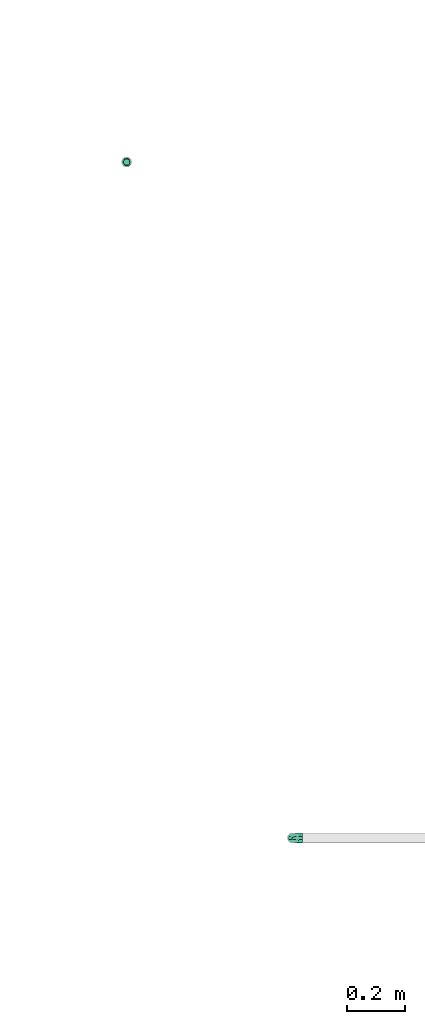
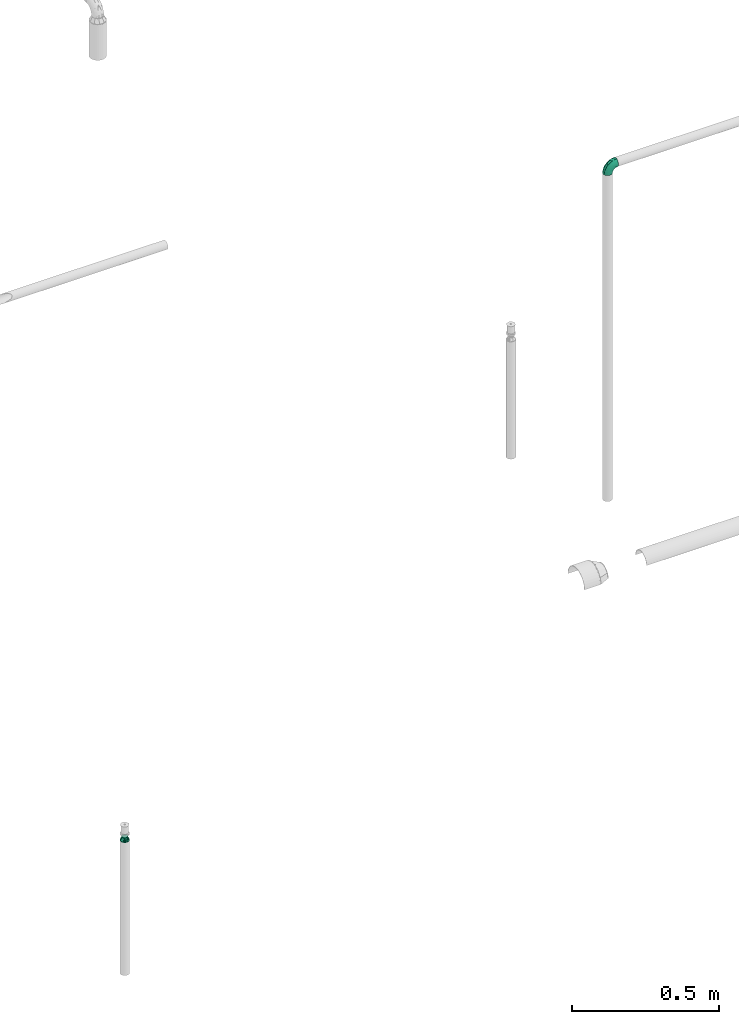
# One storey, part 42 of 63: 2 flow fittings.
"""IFC2X3 building model written with IfcOpenShell, lengths in millimetres."""

from ifc_helpers import new_model, entity, si_unit, converted_unit, derived_unit, direction, frame, origin_with_axes, place, context, subcontext, project, spatial, open_shell, surface_model, source, transform, mapped, type_object, element, save


model = new_model("IFC2X3")

# Units and contexts
model_context = context("Model", 3, precision=0.01, world=frame((0.0, 4.29681676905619e-09, 0.0)), true_north=direction((4.01073788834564e-13, 1.0)))
plan_context = context("Plan", 3, precision=0.01, world=frame((0.0, 4.29681676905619e-09, 0.0)), true_north=direction((4.01073788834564e-13, 1.0)))
body_context = subcontext(model_context, "Body", "Model", "MODEL_VIEW")
ifc_project = project(units=[converted_unit("PLANEANGLEUNIT", "DEGREE", entity("IfcPositiveLengthMeasure", 0.0174532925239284), si_unit("PLANEANGLEUNIT", "RADIAN"), dimensions=[0, 0, 0, 0, 0, 0, 0]), si_unit("AREAUNIT", "SQUARE_METRE"), si_unit("LENGTHUNIT", "METRE", prefix="MILLI"), si_unit("MASSUNIT", "GRAM", prefix="KILO"), si_unit("POWERUNIT", "WATT"), si_unit("PRESSUREUNIT", "PASCAL", prefix="KILO"), si_unit("FORCEUNIT", "NEWTON", prefix="KILO"), si_unit("ELECTRICVOLTAGEUNIT", "VOLT"), si_unit("ELECTRICCURRENTUNIT", "AMPERE"), si_unit("THERMODYNAMICTEMPERATUREUNIT", "DEGREE_CELSIUS"), si_unit("TIMEUNIT", "SECOND"), si_unit("VOLUMEUNIT", "CUBIC_METRE"), derived_unit("LINEARVELOCITYUNIT", [(si_unit("LENGTHUNIT", "METRE"), 1), (si_unit("TIMEUNIT", "SECOND"), -1)]), derived_unit("VOLUMETRICFLOWRATEUNIT", [(si_unit("VOLUMEUNIT", "CUBIC_METRE"), 1), (si_unit("TIMEUNIT", "SECOND"), -1)]), derived_unit("THERMALTRANSMITTANCEUNIT", [(si_unit("POWERUNIT", "WATT"), 1), (si_unit("THERMODYNAMICTEMPERATUREUNIT", "KELVIN"), -1), (si_unit("AREAUNIT", "SQUARE_METRE"), -1)]), derived_unit("SOUNDPRESSUREUNIT", [(si_unit("PRESSUREUNIT", "PASCAL"), 1)])], contexts=[model_context, plan_context])

# Site, building, storey
site_placement = place(None, frame((0.0, -4.29681676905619e-09, 0.0), z_axis=(0.0, 0.0, 1.0), x_axis=(1.0, 0.0, 0.0)))
site = spatial("IfcSite", under=ifc_project, at=site_placement, CompositionType="ELEMENT")
building_placement = place(site_placement, frame((0.0, 4.29681676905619e-09, 0.0), z_axis=(0.0, 0.0, 1.0), x_axis=(1.0, 0.0, 0.0)))
building = spatial("IfcBuilding", under=site, at=building_placement, Name="mc-building", CompositionType="ELEMENT")
storey_placement = place(building_placement, frame((0.0, 0.0, 207370.0), z_axis=(0.0, 0.0, 1.0), x_axis=(1.0, 0.0, 0.0)))
storey = spatial("IfcBuildingStorey", under=building, at=storey_placement, Name="Nivå E", CompositionType="ELEMENT", Elevation=207370.0)

# Flow fittings
pipe_fitting_type_1 = type_object("IfcPipeFittingType", Name="magi_pipe_fe_reducer_centric_short_NOR", PredefinedType="TRANSITION")
shared_shape_1 = source(origin_with_axes(), body_context, "Body", "SurfaceModel", [
    surface_model("IfcShellBasedSurfaceModel", [(14.4, 5.35, -9.26647), (14.4, 0.0, -10.7), (14.4, 2.76936, -10.33541), (14.4, 10.33541, -2.76936), (14.4, 7.56604, -7.56604), (14.4, -10.33541, -2.76936), (14.4, 9.26647, -5.35), (14.4, 0.0, 10.7), (14.4, -5.35, -9.26647), (14.4, -2.76936, -10.33541), (14.4, -7.56604, -7.56604), (14.4, -9.26647, -5.35), (14.4, 10.7, 0.0), (14.4, 10.33541, 2.76936), (14.4, 9.26647, 5.35), (14.4, 7.56604, 7.56604), (14.4, 2.76936, 10.33541), (14.4, 5.35, 9.26647), (14.4, -10.33541, 2.76936), (14.4, -7.56604, 7.56604), (14.4, -9.26647, 5.35), (14.4, -10.7, 0.0), (14.4, -2.76936, 10.33541), (14.4, -5.35, 9.26647), (12.4, 2.76936, 10.33541), (12.4, -10.33541, -2.76936), (12.4, 0.0, 10.7), (12.4, 5.35, 9.26647), (12.4, 7.56604, 7.56604), (12.4, 9.26647, 5.35), (12.4, 10.33541, 2.76936), (12.4, -10.33541, 2.76936), (12.4, -2.76936, 10.33541), (12.4, -7.56604, 7.56604), (12.4, -5.35, 9.26647), (12.4, -9.26647, 5.35), (12.4, -10.7, 0.0), (12.4, 10.33541, -2.76936), (12.4, 5.35, -9.26647), (12.4, 9.26647, -5.35), (12.4, 7.56604, -7.56604), (12.4, 2.76936, -10.33541), (12.4, -9.26647, -5.35), (12.4, -5.35, -9.26647), (12.4, -7.56604, -7.56604), (12.4, 0.0, -10.7), (12.4, -2.76936, -10.33541), (12.4, 10.7, 0.0), (-2.0, 11.9501, 11.9501), (-2.0, 0.0, 16.9), (-2.0, 4.37404, 16.32415), (-2.0, 8.45, 14.63583), (-2.0, 14.63583, 8.45), (-2.0, 16.32415, 4.37404), (-2.0, -16.32415, 4.37404), (-2.0, -8.45, 14.63583), (-2.0, -14.63583, 8.45), (-2.0, -11.9501, 11.9501), (-2.0, -4.37404, 16.32415), (-2.0, -16.32415, -4.37404), (-2.0, -16.9, 0.0), (-2.0, -8.45, -14.63583), (-2.0, 16.32415, -4.37404), (-2.0, 11.9501, -11.9501), (-2.0, 14.63583, -8.45), (-2.0, 8.45, -14.63583), (-2.0, 4.37404, -16.32415), (-2.0, 0.0, -16.9), (-2.0, -11.9501, -11.9501), (-2.0, -14.63583, -8.45), (-2.0, -4.37404, -16.32415), (-2.0, 16.9, 0.0), (0.0, 4.37404, -16.32415), (0.0, 8.45, -14.63583), (0.0, 11.9501, -11.9501), (0.0, 0.0, -16.9), (0.0, 16.32415, -4.37404), (0.0, 16.32415, 4.37404), (0.0, 14.63583, -8.45), (0.0, -8.45, -14.63583), (0.0, -4.37404, -16.32415), (0.0, -11.9501, -11.9501), (0.0, -16.32415, -4.37404), (0.0, -14.63583, -8.45), (0.0, -16.32415, 4.37404), (0.0, 16.9, 0.0), (0.0, 14.63583, 8.45), (0.0, 11.9501, 11.9501), (0.0, 4.37404, 16.32415), (0.0, 8.45, 14.63583), (0.0, 0.0, 16.9), (0.0, -14.63583, 8.45), (0.0, -16.9, 0.0), (0.0, -8.45, 14.63583), (0.0, -11.9501, 11.9501), (0.0, -4.37404, 16.32415), (12.4, 9.3625, -2.31662), (0.0, 14.42505, -5.97505), (0.0, 15.66253, -2.98753), (12.4, -6.6875, -6.94985), (0.0, -13.18758, -8.96258), (0.0, 2.98753, -15.66253), (12.4, 0.0, -9.26647), (12.4, 6.6875, -6.94985), (0.0, 8.96258, -13.18758), (12.4, -9.3625, -2.31662), (0.0, -15.66253, -2.98753), (0.0, -14.42505, -5.97505), (0.0, 5.97505, -14.42505), (0.0, -2.98753, -15.66253), (0.0, -8.96258, -13.18758), (0.0, 13.18758, -8.96258), (12.4, 8.025, -4.63324), (12.4, -2.675, -9.26647), (12.4, 2.675, -9.26647), (0.0, -5.97505, -14.42505), (12.4, -8.025, -4.63324), (12.4, -9.3625, 2.31662), (0.0, -14.42505, 5.97505), (0.0, -15.66253, 2.98753), (12.4, 6.6875, 6.94985), (0.0, 13.18758, 8.96258), (0.0, -2.98753, 15.66253), (12.4, 0.0, 9.26647), (12.4, -6.6875, 6.94985), (0.0, -8.96258, 13.18758), (12.4, 9.3625, 2.31662), (0.0, 15.66253, 2.98753), (0.0, 14.42505, 5.97505), (0.0, -5.97505, 14.42505), (0.0, 2.98753, 15.66253), (0.0, 8.96258, 13.18758), (0.0, -13.18758, 8.96258), (12.4, -8.025, 4.63324), (12.4, 2.675, 9.26647), (12.4, -2.675, 9.26647), (0.0, 5.97505, 14.42505), (12.4, 8.025, 4.63324)], [open_shell([[[0, 1, 2]], [[3, 0, 4]], [[5, 0, 3]], [[3, 4, 6]], [[7, 5, 3]], [[1, 8, 9]], [[1, 0, 8]], [[10, 5, 11]], [[5, 10, 8]], [[0, 5, 8]], [[3, 12, 13]], [[13, 14, 15]], [[13, 15, 16]], [[7, 3, 16]], [[16, 15, 17]], [[7, 18, 5]], [[18, 19, 20]], [[21, 5, 18]], [[19, 22, 23]], [[22, 19, 18]], [[7, 22, 18]], [[13, 16, 3]], [[24, 25, 26]], [[27, 25, 24]], [[28, 29, 30]], [[28, 25, 27]], [[31, 26, 25]], [[32, 33, 34]], [[33, 32, 31]], [[33, 31, 35]], [[32, 26, 31]], [[31, 25, 36]], [[30, 37, 28]], [[25, 28, 37]], [[38, 37, 39]], [[37, 38, 25]], [[38, 39, 40]], [[41, 25, 38]], [[42, 43, 44]], [[43, 42, 25]], [[43, 45, 46]], [[43, 25, 41]], [[41, 45, 43]], [[37, 30, 47]], [[25, 5, 36]], [[42, 11, 25]], [[8, 44, 43]], [[42, 44, 10]], [[9, 43, 46]], [[25, 11, 5]], [[5, 21, 36]], [[9, 8, 43]], [[10, 44, 8]], [[10, 11, 42]], [[1, 9, 46]], [[46, 45, 1]], [[41, 2, 45]], [[38, 0, 41]], [[6, 40, 39]], [[38, 40, 4]], [[3, 39, 37]], [[38, 4, 0]], [[0, 2, 41]], [[12, 3, 37]], [[6, 39, 3]], [[6, 4, 40]], [[47, 12, 37]], [[45, 2, 1]], [[30, 13, 47]], [[29, 14, 30]], [[17, 28, 27]], [[29, 28, 15]], [[16, 27, 24]], [[30, 14, 13]], [[13, 12, 47]], [[16, 17, 27]], [[15, 28, 17]], [[15, 14, 29]], [[7, 16, 24]], [[24, 26, 7]], [[32, 22, 26]], [[34, 23, 32]], [[20, 33, 35]], [[34, 33, 19]], [[18, 35, 31]], [[34, 19, 23]], [[23, 22, 32]], [[21, 18, 31]], [[20, 35, 18]], [[20, 19, 33]], [[36, 21, 31]], [[26, 22, 7]], [[48, 49, 50]], [[48, 50, 51]], [[48, 52, 53]], [[48, 53, 49]], [[49, 53, 54]], [[55, 56, 57]], [[55, 58, 49]], [[56, 55, 49]], [[49, 54, 56]], [[54, 59, 60]], [[54, 53, 61]], [[53, 62, 63]], [[63, 62, 64]], [[63, 65, 66]], [[61, 53, 63]], [[67, 63, 66]], [[59, 68, 69]], [[68, 59, 61]], [[61, 67, 70]], [[59, 54, 61]], [[63, 67, 61]], [[53, 71, 62]], [[72, 73, 74]], [[75, 72, 74]], [[74, 76, 77]], [[76, 74, 78]], [[74, 77, 79]], [[75, 79, 80]], [[75, 74, 79]], [[81, 82, 83]], [[82, 81, 79]], [[79, 84, 82]], [[77, 76, 85]], [[77, 86, 87]], [[77, 87, 88]], [[88, 84, 79]], [[88, 87, 89]], [[84, 88, 90]], [[90, 91, 84]], [[92, 82, 84]], [[91, 93, 94]], [[91, 90, 93]], [[93, 90, 95]], [[79, 77, 88]], [[59, 82, 60]], [[69, 83, 59]], [[79, 68, 61]], [[69, 68, 81]], [[80, 61, 70]], [[59, 83, 82]], [[82, 92, 60]], [[80, 79, 61]], [[81, 68, 79]], [[81, 83, 69]], [[75, 80, 70]], [[70, 67, 75]], [[66, 72, 67]], [[65, 73, 66]], [[78, 63, 64]], [[65, 63, 74]], [[76, 64, 62]], [[65, 74, 73]], [[73, 72, 66]], [[85, 76, 62]], [[78, 64, 76]], [[78, 74, 63]], [[71, 85, 62]], [[67, 72, 75]], [[53, 77, 71]], [[52, 86, 53]], [[89, 48, 51]], [[52, 48, 87]], [[88, 51, 50]], [[53, 86, 77]], [[77, 85, 71]], [[88, 89, 51]], [[87, 48, 89]], [[87, 86, 52]], [[90, 88, 50]], [[50, 49, 90]], [[58, 95, 49]], [[55, 93, 58]], [[91, 57, 56]], [[55, 57, 94]], [[84, 56, 54]], [[55, 94, 93]], [[93, 95, 58]], [[92, 84, 54]], [[91, 56, 84]], [[91, 94, 57]], [[60, 92, 54]], [[49, 95, 90]], [[27, 34, 47]], [[47, 34, 43]], [[43, 38, 47]], [[43, 34, 36]], [[90, 87, 94]], [[92, 94, 87]], [[87, 74, 92]], [[75, 92, 74]], [[81, 92, 75]], [[74, 87, 85]], [[96, 97, 98]], [[81, 99, 100]], [[101, 102, 75]], [[98, 85, 47]], [[74, 103, 104]], [[104, 103, 38]], [[105, 106, 107]], [[38, 108, 104]], [[102, 109, 75]], [[110, 99, 81]], [[47, 96, 98]], [[103, 111, 112]], [[109, 102, 113]], [[36, 92, 106]], [[102, 101, 114]], [[110, 115, 43]], [[96, 112, 97]], [[107, 116, 105]], [[36, 106, 105]], [[113, 115, 109]], [[43, 115, 113]], [[116, 107, 100]], [[108, 38, 114]], [[111, 103, 74]], [[111, 97, 112]], [[99, 110, 43]], [[116, 100, 99]], [[101, 108, 114]], [[117, 118, 119]], [[87, 120, 121]], [[122, 123, 90]], [[119, 92, 36]], [[94, 124, 125]], [[125, 124, 34]], [[126, 127, 128]], [[34, 129, 125]], [[123, 130, 90]], [[131, 120, 87]], [[36, 117, 119]], [[124, 132, 133]], [[130, 123, 134]], [[47, 85, 127]], [[123, 122, 135]], [[131, 136, 27]], [[117, 133, 118]], [[128, 137, 126]], [[47, 127, 126]], [[134, 136, 130]], [[27, 136, 134]], [[137, 128, 121]], [[129, 34, 135]], [[132, 124, 94]], [[132, 118, 133]], [[120, 131, 27]], [[137, 121, 120]], [[122, 129, 135]]])]),
])
flow_fitting_1_placement = place(storey_placement, frame((726013.2856, 441293.31989, 3018.36794), z_axis=(0.0, -1.0, 0.0), x_axis=(0.0, 0.0, 1.0)))
element("IfcFlowFitting", 1, at=flow_fitting_1_placement, inside=storey, type_object=pipe_fitting_type_1, Name="magi_pipe_fe_reducer_centric_short_NOR", context=body_context, shape_type="MappedRepresentation", body=[
    mapped(shared_shape_1, transform((0.0, 0.0, 0.0), scale=1.0)),
])
pipe_fitting_type_2 = type_object("IfcPipeFittingType", Name="magi_pipe_fe_elbow_short_001", PredefinedType="BEND")
shared_shape_2 = source(origin_with_axes(), body_context, "Body", "SurfaceModel", [
    surface_model("IfcShellBasedSurfaceModel", [(-33.8, 8.45, -14.63583), (-33.8, 4.37404, -16.32415), (-33.8, 11.9501, -11.9501), (-33.8, -11.9501, -11.9501), (-33.8, -14.63583, -8.45), (-33.8, -8.45, -14.63583), (-33.8, 0.0, -16.9), (-33.8, -4.37404, -16.32415), (-33.8, -4.37404, 16.32415), (-33.8, 0.0, 16.9), (-33.8, -8.45, 14.63583), (-33.8, 16.32415, -4.37404), (-33.8, 14.63583, -8.45), (-33.8, -16.32415, -4.37404), (-33.8, -16.9, 0.0), (-33.8, -16.32415, 4.37404), (-33.8, 11.9501, 11.9501), (-33.8, 14.63583, 8.45), (-33.8, 16.32415, 4.37404), (-33.8, 4.37404, 16.32415), (-33.8, 8.45, 14.63583), (-33.8, -14.63583, 8.45), (-33.8, -11.9501, 11.9501), (-33.8, 16.9, 0.0), (-11.9501, 33.8, -11.9501), (0.0, 33.8, -16.9), (-4.37404, 33.8, -16.32415), (-8.45, 33.8, -14.63583), (-14.63583, 33.8, -8.45), (-16.32415, 33.8, -4.37404), (14.63583, 33.8, -8.45), (8.45, 33.8, 14.63583), (16.32415, 33.8, -4.37404), (8.45, 33.8, -14.63583), (11.9501, 33.8, -11.9501), (4.37404, 33.8, -16.32415), (16.32415, 33.8, 4.37404), (16.9, 33.8, 0.0), (-11.9501, 33.8, 11.9501), (-16.32415, 33.8, 4.37404), (-14.63583, 33.8, 8.45), (-8.45, 33.8, 14.63583), (-4.37404, 33.8, 16.32415), (11.9501, 33.8, 11.9501), (14.63583, 33.8, 8.45), (0.0, 33.8, 16.9), (4.37404, 33.8, 16.32415), (-16.9, 33.8, 0.0), (-24.79389, -13.12945, 9.48721), (-22.19287, -9.75018, 12.59315), (-24.09897, -14.97035, 0.0), (-14.93934, -10.76256, 8.5297), (-22.46095, -14.75051, 5.27077), (14.75051, 22.46094, 5.27077), (11.9251, 13.23888, 4.33236), (13.04069, 14.39795, 0.0), (7.71387, 13.68847, 11.55891), (9.75018, 22.19287, 12.59315), (4.10169, 13.0571, 14.04018), (-24.84007, -6.39063, 15.2048), (-25.81779, -2.23879, 16.61097), (-23.66549, 2.59054, 16.87119), (-26.50418, 14.06512, 11.08152), (-24.21253, 17.66365, 7.72657), (-29.58514, 15.86957, 7.00283), (-6.17382, -7.5455, 0.0), (-13.23888, -11.9251, 4.33236), (-14.39795, -13.04069, 0.0), (-17.81434, 18.87373, 11.97104), (-6.30846, 29.15138, 15.82987), (-2.31622, 25.28002, 16.85849), (-29.23923, 10.23435, 13.77053), (-1.45439, -2.85688, 7.61475), (-0.28326, 0.34872, 10.09509), (-5.74484, -4.04709, 10.4122), (-4.41137, 11.31918, 16.59407), (-8.39727, 3.10034, 15.7812), (-1.72649, 9.1306, 15.53089), (-17.39909, 24.75344, 7.64977), (-26.19233, 20.0512, 0.0), (-28.14518, 17.29657, 4.25857), (-26.05147, 6.6281, 15.96447), (-5.87354, 16.61944, 16.86968), (-12.51807, 12.51807, 16.48937), (-10.06312, 7.38516, 16.81295), (-3.01882, 3.01882, 13.81718), (-13.0571, -4.10169, 14.04018), (-16.82553, -0.15166, 16.38038), (10.76256, 14.93934, 8.5297), (13.12945, 24.79389, 9.48721), (6.39063, 24.84007, 15.2048), (2.23879, 25.81779, 16.61097), (-13.68847, -7.71387, 11.55891), (14.97035, 24.09897, 0.0), (-7.30894, 22.89991, 16.09489), (-10.67958, 26.17414, 14.008), (-12.78295, 18.26924, 15.06066), (-13.88562, 22.45231, 12.93244), (-18.04944, 15.16501, 14.04434), (-23.11658, 20.08178, 4.02986), (-21.84989, 21.84989, 0.0), (-18.55817, 25.48277, 3.93065), (-13.95142, 26.94732, 11.03289), (-18.57098, 7.23906, 16.59756), (-16.58335, 4.14122, 16.89279), (-17.96666, 11.46709, 15.63151), (-9.84453, 17.54304, 16.18938), (0.15166, 16.82553, 16.38038), (-23.27207, 11.47201, 14.23154), (3.84842, 5.86994, 10.70473), (-8.0212, -7.54413, 7.93275), (1.00345, -2.19508, 4.57414), (5.13203, 3.01004, 5.90201), (5.24161, 1.7543, 2.53265), (8.70457, 7.04947, 3.99182), (-20.0512, 26.19233, 0.0), (8.4852, 8.76699, 7.09296), (-4.55488, -6.72064, 4.90681), (2.05031, -2.05031, 0.0), (7.5455, 6.17382, 0.0), (-26.75399, 2.1369, -16.845), (-14.61995, 24.73803, -11.27736), (-28.45274, -13.45335, -9.81895), (-26.00469, 6.63555, -15.96645), (-23.06726, 20.04573, -4.26202), (-13.80647, -4.26506, -14.17873), (-14.67501, -0.21081, -16.07388), (-6.7902, -0.2828, -13.8478), (-24.53586, 11.08096, -14.13417), (-26.72048, 14.00837, -11.05776), (10.0967, 24.44989, -12.75976), (5.83237, 21.40218, -15.03047), (6.66249, 28.54238, -15.38093), (-20.38182, 15.48705, -12.74596), (12.53268, 21.23441, -9.15363), (12.54494, 15.67504, -5.54878), (9.7522, 12.89279, -8.66343), (-15.65186, 19.64213, -13.01327), (-12.03528, 20.66498, -14.67665), (-15.61907, 15.61906, -14.83879), (-25.56551, -15.26206, 0.0), (-24.65452, -15.12934, -5.50955), (13.45335, 28.45274, -9.81895), (15.12934, 24.65452, -5.50955), (-7.35442, -8.31014, -5.65563), (-15.67504, -12.54494, -5.54878), (-24.44989, -10.0967, -12.75976), (0.16522, 0.41303, -9.71728), (-5.70658, -5.33066, -8.89288), (-5.13869, -2.37198, -11.53565), (-21.23441, -12.53268, -9.15363), (0.71146, 7.93863, -14.09382), (0.21081, 14.67501, -16.07388), (3.49291, 14.42772, -14.76381), (-24.89911, -2.13088, -16.591), (-28.54238, -6.66249, -15.38093), (-18.44386, -7.71663, -13.26957), (2.13088, 24.89911, -16.591), (-28.64342, 17.44413, -2.89318), (1.70017, -1.28722, -5.09504), (-16.57067, 26.81947, -7.36596), (-17.69055, 27.4263, -3.76405), (-12.89279, -9.7522, -8.66343), (-5.96611, 5.96611, -15.95814), (-20.53709, 20.09345, -8.28985), (-2.1369, 26.75399, -16.845), (-6.89872, 24.58781, -16.02578), (-10.60739, 26.53157, -13.98044), (-21.40218, -5.83237, -15.03047), (2.93192, 5.89627, -11.55917), (6.89393, 12.61842, -11.82233), (5.58056, 5.95325, -8.79455), (-3.99512, 18.61798, -16.89635), (8.31014, 7.35442, -5.65563), (-9.1383, 9.86148, -16.89041), (-9.99983, 16.02119, -16.39699), (-16.68576, 9.78031, -16.34199), (-27.01915, 16.61158, -7.12979), (15.26206, 25.56551, 0.0), (-18.61798, 3.99512, -16.89635), (-19.37495, 27.82495, 0.0), (-12.61842, -6.89393, -11.82233), (-18.84705, 19.14018, -10.96545)], [open_shell([[[0, 1, 2]], [[3, 4, 5]], [[6, 7, 5]], [[8, 9, 10]], [[1, 6, 2]], [[11, 12, 2]], [[4, 2, 6]], [[2, 13, 10]], [[5, 4, 6]], [[2, 4, 13]], [[14, 15, 13]], [[11, 2, 16]], [[11, 17, 18]], [[11, 16, 17]], [[19, 20, 16]], [[16, 2, 10]], [[19, 16, 10]], [[21, 22, 15]], [[22, 13, 15]], [[22, 10, 13]], [[10, 9, 19]], [[11, 18, 23]], [[24, 25, 26]], [[24, 26, 27]], [[24, 28, 29]], [[25, 24, 30]], [[31, 32, 24]], [[33, 30, 34]], [[33, 35, 25]], [[25, 30, 33]], [[32, 30, 24]], [[32, 36, 37]], [[38, 24, 29]], [[39, 40, 29]], [[40, 38, 29]], [[38, 41, 42]], [[38, 31, 24]], [[31, 38, 42]], [[36, 43, 44]], [[36, 32, 43]], [[31, 45, 46]], [[32, 31, 43]], [[42, 45, 31]], [[39, 29, 47]], [[22, 48, 49]], [[15, 14, 50]], [[51, 48, 52]], [[53, 54, 55]], [[48, 22, 21]], [[15, 52, 21]], [[56, 57, 58]], [[49, 10, 22]], [[49, 59, 10]], [[9, 60, 61]], [[62, 63, 64]], [[65, 66, 67]], [[57, 43, 31]], [[62, 68, 63]], [[42, 69, 70]], [[20, 71, 16]], [[8, 60, 9]], [[72, 73, 74]], [[75, 76, 77]], [[16, 62, 17]], [[40, 39, 78]], [[79, 23, 80]], [[64, 18, 17]], [[9, 61, 19]], [[19, 81, 20]], [[82, 83, 84]], [[74, 85, 86]], [[59, 86, 87]], [[88, 89, 57]], [[90, 31, 46]], [[44, 53, 36]], [[46, 45, 91]], [[54, 53, 88]], [[44, 89, 53]], [[92, 86, 49]], [[89, 44, 43]], [[10, 59, 8]], [[53, 55, 93]], [[93, 36, 53]], [[66, 52, 67]], [[94, 82, 70]], [[95, 96, 94]], [[97, 98, 96]], [[79, 99, 100]], [[41, 38, 95]], [[101, 100, 99]], [[68, 78, 63]], [[42, 41, 69]], [[23, 18, 80]], [[95, 94, 69]], [[78, 101, 99]], [[38, 102, 95]], [[70, 45, 42]], [[97, 95, 102]], [[15, 50, 52]], [[90, 57, 31]], [[57, 90, 58]], [[81, 19, 61]], [[103, 104, 84]], [[105, 81, 103]], [[38, 40, 102]], [[106, 96, 83]], [[94, 106, 82]], [[91, 70, 107]], [[71, 62, 16]], [[62, 108, 98]], [[86, 59, 49]], [[67, 52, 50]], [[60, 59, 87]], [[92, 49, 51]], [[86, 85, 76]], [[91, 90, 46]], [[37, 36, 93]], [[107, 77, 58]], [[107, 58, 90]], [[58, 85, 109]], [[110, 74, 92]], [[72, 74, 110]], [[66, 51, 52]], [[72, 111, 112]], [[113, 114, 112]], [[56, 88, 57]], [[52, 48, 21]], [[49, 48, 51]], [[57, 89, 43]], [[53, 89, 88]], [[103, 81, 61]], [[71, 81, 108]], [[18, 64, 80]], [[63, 78, 99]], [[47, 115, 101]], [[101, 115, 100]], [[40, 78, 102]], [[68, 102, 78]], [[97, 96, 95]], [[105, 98, 108]], [[103, 84, 83]], [[107, 70, 82]], [[76, 84, 87]], [[82, 84, 75]], [[70, 91, 45]], [[90, 91, 107]], [[59, 60, 8]], [[61, 60, 87]], [[73, 85, 74]], [[109, 112, 116]], [[103, 61, 104]], [[105, 103, 83]], [[96, 105, 83]], [[81, 105, 108]], [[96, 98, 105]], [[62, 98, 68]], [[61, 87, 104]], [[87, 84, 104]], [[86, 76, 87]], [[77, 76, 85]], [[58, 77, 85]], [[75, 77, 107]], [[82, 75, 107]], [[76, 75, 84]], [[81, 71, 20]], [[62, 71, 108]], [[95, 69, 41]], [[70, 69, 94]], [[62, 64, 17]], [[80, 63, 99]], [[63, 80, 64]], [[80, 99, 79]], [[66, 65, 117]], [[110, 66, 117]], [[112, 114, 116]], [[118, 117, 65]], [[110, 92, 51]], [[112, 111, 113]], [[119, 55, 54]], [[74, 86, 92]], [[58, 109, 56]], [[116, 56, 109]], [[66, 110, 51]], [[72, 110, 117]], [[111, 72, 117]], [[73, 112, 109]], [[117, 118, 111]], [[113, 111, 118]], [[118, 119, 113]], [[114, 119, 54]], [[119, 114, 113]], [[116, 54, 88]], [[54, 116, 114]], [[116, 88, 56]], [[112, 73, 72]], [[85, 73, 109]], [[78, 39, 101]], [[47, 101, 39]], [[102, 68, 97]], [[97, 68, 98]], [[82, 106, 83]], [[94, 96, 106]], [[1, 120, 6]], [[28, 24, 121]], [[3, 122, 4]], [[0, 123, 1]], [[100, 124, 79]], [[125, 126, 127]], [[128, 2, 129]], [[130, 131, 132]], [[128, 129, 133]], [[134, 135, 136]], [[137, 138, 139]], [[128, 0, 2]], [[67, 140, 141]], [[134, 142, 143]], [[141, 13, 4]], [[144, 65, 145]], [[146, 3, 5]], [[147, 148, 149]], [[145, 141, 150]], [[151, 152, 153]], [[154, 7, 6]], [[5, 155, 146]], [[150, 146, 156]], [[155, 5, 7]], [[143, 135, 134]], [[35, 157, 25]], [[23, 79, 158]], [[148, 159, 144]], [[160, 161, 29]], [[145, 162, 144]], [[163, 152, 151]], [[29, 28, 160]], [[121, 164, 160]], [[33, 34, 130]], [[25, 165, 26]], [[26, 165, 166]], [[142, 34, 30]], [[24, 27, 167]], [[124, 161, 164]], [[157, 35, 132]], [[155, 154, 168]], [[123, 0, 128]], [[169, 170, 171]], [[172, 157, 152]], [[26, 166, 27]], [[132, 35, 33]], [[142, 130, 34]], [[168, 154, 126]], [[136, 135, 173]], [[133, 137, 139]], [[2, 12, 129]], [[170, 131, 130]], [[30, 32, 143]], [[172, 174, 175]], [[176, 123, 128]], [[158, 177, 11]], [[135, 55, 119]], [[167, 27, 166]], [[175, 166, 172]], [[137, 167, 138]], [[122, 141, 4]], [[140, 14, 13]], [[32, 37, 178]], [[170, 130, 134]], [[152, 157, 131]], [[165, 157, 172]], [[153, 170, 151]], [[152, 163, 174]], [[168, 125, 156]], [[122, 146, 150]], [[120, 154, 6]], [[179, 174, 126]], [[179, 126, 154]], [[126, 163, 127]], [[162, 145, 150]], [[140, 13, 141]], [[32, 178, 143]], [[55, 143, 178]], [[177, 129, 12]], [[128, 133, 139]], [[176, 128, 139]], [[120, 123, 179]], [[121, 160, 28]], [[161, 100, 180]], [[166, 175, 138]], [[121, 24, 167]], [[161, 47, 29]], [[79, 124, 158]], [[124, 164, 177]], [[161, 124, 100]], [[136, 171, 170]], [[127, 163, 151]], [[147, 171, 159]], [[148, 144, 162]], [[127, 151, 169]], [[127, 181, 125]], [[129, 177, 164]], [[12, 11, 177]], [[159, 65, 144]], [[67, 141, 145]], [[143, 55, 135]], [[135, 119, 173]], [[123, 120, 1]], [[154, 120, 179]], [[157, 165, 25]], [[166, 165, 172]], [[172, 152, 174]], [[176, 139, 175]], [[126, 174, 163]], [[176, 174, 179]], [[174, 176, 175]], [[123, 176, 179]], [[150, 181, 162]], [[127, 149, 181]], [[181, 148, 162]], [[159, 148, 147]], [[171, 136, 173]], [[170, 134, 136]], [[159, 171, 173]], [[171, 147, 169]], [[169, 147, 149]], [[151, 170, 169]], [[164, 182, 129]], [[182, 121, 137]], [[181, 149, 148]], [[169, 149, 127]], [[182, 137, 133]], [[167, 137, 121]], [[166, 138, 167]], [[175, 139, 138]], [[129, 182, 133]], [[121, 182, 164]], [[161, 160, 164]], [[47, 161, 180]], [[177, 158, 124]], [[23, 158, 11]], [[130, 132, 33]], [[157, 132, 131]], [[143, 142, 30]], [[130, 142, 134]], [[154, 155, 7]], [[146, 155, 168]], [[146, 122, 3]], [[141, 122, 150]], [[152, 131, 153]], [[159, 119, 118]], [[67, 145, 65]], [[170, 153, 131]], [[119, 159, 173]], [[159, 118, 65]], [[156, 125, 181]], [[126, 125, 168]], [[150, 156, 181]], [[168, 156, 146]]])]),
])
flow_fitting_2_placement = place(storey_placement, frame((726580.0, 438982.74228, 7030.0), z_axis=(0.0, 1.0, 0.0), x_axis=(0.0, 0.0, 1.0)))
element("IfcFlowFitting", 2, at=flow_fitting_2_placement, inside=storey, type_object=pipe_fitting_type_2, Name="magi_pipe_fe_elbow_short_001", context=body_context, shape_type="MappedRepresentation", body=[
    mapped(shared_shape_2, transform((0.0, 0.0, 0.0), scale=1.0)),
])

save(model, "model.ifc")
